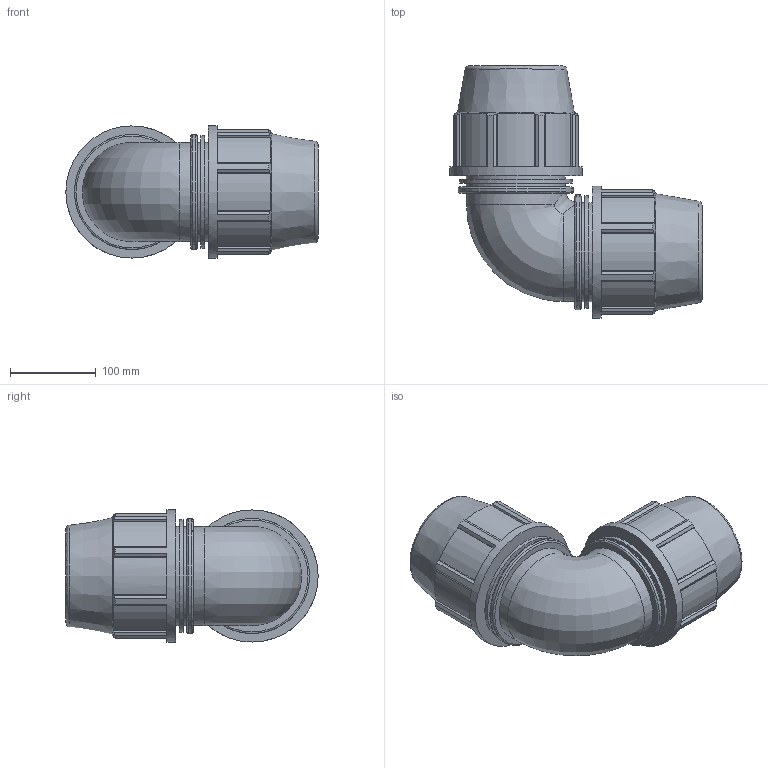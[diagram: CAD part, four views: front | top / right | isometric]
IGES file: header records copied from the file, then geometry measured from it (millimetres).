
Global section: file name: 0705060900A.ipt; native system: Autodesk Inventor 2015; preprocessor: unknown; author: KIM; date: 20180325.201209; units: millimetre
Bounding box: 294 x 294 x 154 mm (x, y, z)
Volume: 3023405.1 mm3; surface area: 349745.9 mm2
Topology: 1 solids, 1 shells, 143 faces, 393 edges, 266 vertices
Faces by surface type: plane 96, cylinder 28, revolution 14, cone 4, bspline 1
Full cylindrical faces by diameter (mm): 115.5 x4, 131.3 x2, 133.98 x2, 154 x2
